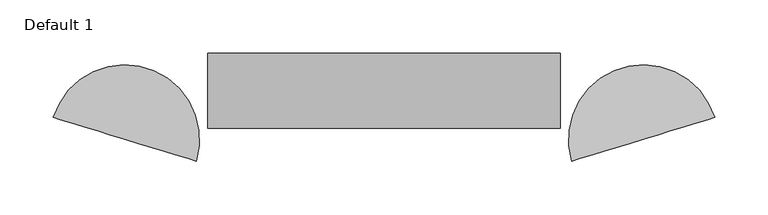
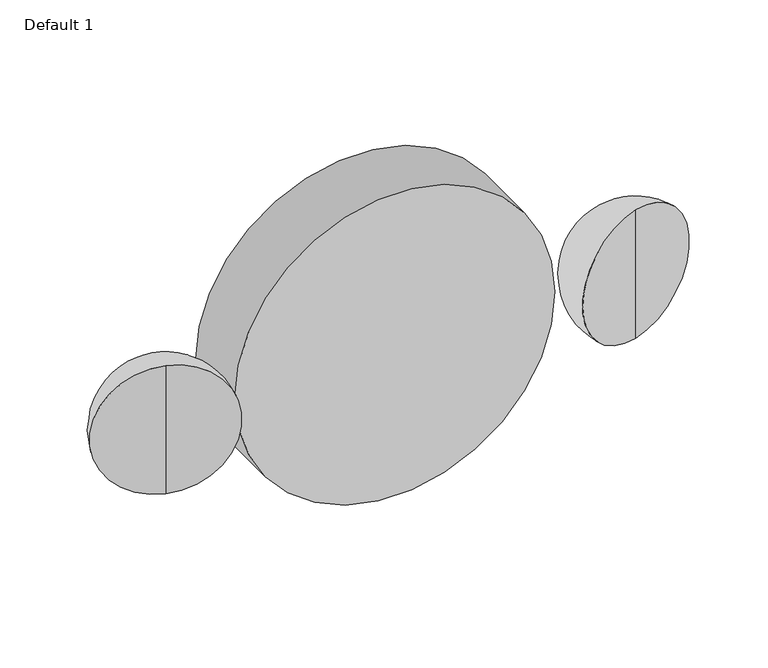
"""IFC4 building model written with IfcOpenShell, lengths in millimetres: proxy geometry, Emegency Light - Wall Mounted : Default 1."""

from ifc_helpers import new_model, si_unit, point, frame, frame_2d, origin, place, context, project, spatial, circle_curve, ellipse_curve, trimmed, segment, composite_curve, outline, extrude, source, transform, mapped, element, save
from ifc_brep_helpers import plane_surface, revolved_surface, advanced_brep


def default_1_30724830(model_context):
    return source(origin(), model_context, "Body", "SolidModel", [
        advanced_brep(
        [(242.0100861, -80.3132879, 1884.4459372), (242.0100861, -80.3132879, 1744.7459372)],
        [
            (0, 1),
            (1, 0, circle_curve(frame((242.0100861, -80.3132879, 1814.5959372), z_axis=(0.29237170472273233, -0.9563047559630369, 0.0), x_axis=(0.0, 0.0, -1.0)), 69.85)),
            (0, 1, circle_curve(frame((242.0100861, -80.3132879, 1814.5959372), z_axis=(0.2923717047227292, -0.9563047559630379, 0.0), x_axis=(0.0, 0.0, -1.0)), 69.85)),
        ],
        [
            plane_surface(frame((242.0100861, -80.3132879, 1887.6209372), z_axis=(0.2923717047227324, -0.9563047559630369, 0.0), x_axis=(0.9563047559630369, 0.2923717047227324, 0.0))),
            plane_surface(frame((242.0100861, -80.3132879, 1887.6209372), z_axis=(0.2923717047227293, -0.9563047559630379, 0.0), x_axis=(-0.9563047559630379, -0.2923717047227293, 0.0))),
            revolved_surface(trimmed(ellipse_curve(frame((242.0100861, -80.3132879, 1814.5959372), z_axis=(-0.29237170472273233, 0.9563047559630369, 0.0), x_axis=(0.0, 0.0, -1.0)), 69.85, 69.85), [point((242.0100861, -80.3132879, 1884.4459372))], [point((242.0100861, -80.3132879, 1744.7459372))], True, "CARTESIAN"), (242.0100861, -80.3132879, 1887.6209372), (0.0, 0.0, -1.0)),
        ],
        [
            (0, [[1, 2]]),
            (1, [[3, -1]]),
            (2, [[-2, -3]]),
        ],
    ),
        advanced_brep(
        [(-242.9779673, -80.3132879, 1884.4459372), (-242.9779673, -80.3132879, 1744.7459372)],
        [
            (0, 1, circle_curve(frame((-242.9779673, -80.3132879, 1814.5959372), z_axis=(-0.29237170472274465, -0.9563047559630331, 0.0), x_axis=(0.0, 0.0, -1.0)), 69.85)),
            (1, 0),
            (1, 0, circle_curve(frame((-242.9779673, -80.3132879, 1814.5959372), z_axis=(-0.29237170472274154, -0.9563047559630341, 0.0), x_axis=(0.0, 0.0, -1.0)), 69.85)),
        ],
        [
            plane_surface(frame((-242.9779673, -80.3132879, 1887.6209372), z_axis=(-0.2923717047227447, -0.9563047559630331, 0.0), x_axis=(-0.9563047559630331, 0.2923717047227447, 0.0))),
            plane_surface(frame((-242.9779673, -80.3132879, 1887.6209372), z_axis=(-0.2923717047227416, -0.9563047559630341, 0.0), x_axis=(0.9563047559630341, -0.2923717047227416, 0.0))),
            revolved_surface(trimmed(ellipse_curve(frame((-242.9779673, -80.3132879, 1814.5959372), z_axis=(0.29237170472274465, 0.9563047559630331, 0.0), x_axis=(0.0, 0.0, -1.0)), 69.85, 69.85), [point((-242.9779673, -80.3132879, 1744.7459372))], [point((-242.9779673, -80.3132879, 1884.4459372))], True, "CARTESIAN"), (-242.9779673, -80.3132879, 1887.6209372), (0.0, 0.0, 1.0)),
        ],
        [
            (0, [[1, 2]]),
            (1, [[3, -2]]),
            (2, [[-1, -3]]),
        ],
    ),
        extrude(outline(composite_curve([segment(trimmed(circle_curve(frame_2d((1816.1, -0.4839406)), 165.1), [point((1816.1, 164.6160594))], [point((1816.1, -165.5839406))], False, "CARTESIAN"), True, "CONTINUOUS"), segment(trimmed(circle_curve(frame_2d((1816.1, -0.4839406)), 165.1), [point((1816.1, -165.5839406))], [point((1816.1, 164.6160594))], False, "CARTESIAN"), True, "CONTINUOUS")], self_intersect=False)), frame((0.0, -69.85, 0.0), z_axis=(0.0, 1.0, 0.0), x_axis=(0.0, 0.0, 1.0)), (0.0, 0.0, 1.0), 69.85),
    ])


if __name__ == "__main__":
    model = new_model("IFC4")
    model_context = context("Model", 3, world=origin())
    ifc_project = project(units=[si_unit("LENGTHUNIT", "METRE", prefix="MILLI")], contexts=[model_context])
    site = spatial("IfcSite", under=ifc_project)
    building = spatial("IfcBuilding", under=site)
    placement = place(None, origin())
    default_1_shape = default_1_30724830(model_context)
    element("IfcBuildingElementProxy", 1, Name="Emegency Light - Wall Mounted : Default 1", ObjectType="Emegency Light - Wall Mounted : Default 1", at=placement, inside=building, context=model_context, shape_type="MappedRepresentation", body=[
        mapped(default_1_shape, transform((0.0, 0.0, 0.0), x_axis=(1.0, 0.0, 0.0), y_axis=(0.0, 1.0, 0.0), z_axis=(0.0, 0.0, 1.0))),
    ])
    save(model, "model.ifc")
